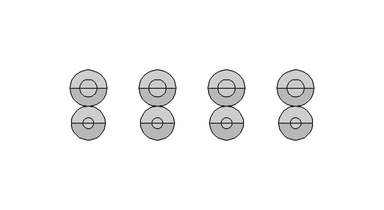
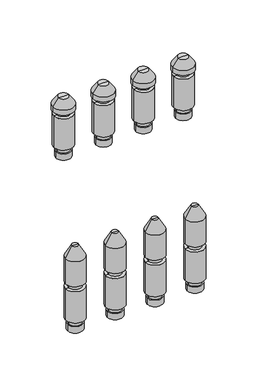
"""IFC4 building model written with IfcOpenShell, lengths in millimetres: valve geometry, PL AT_Manifold_FT-EV : 12 circuits."""

from ifc_helpers import new_model, si_unit, frame, origin, place, context, project, spatial, polyline, circle_curve, source, transform, mapped, element, save
from ifc_brep_helpers import plane_surface, cylinder_surface, revolved_surface, advanced_brep


def valve_28fdf4a6(model_context):
    return source(origin(), model_context, "Body", "AdvancedBrep", [
        advanced_brep(
        [(525.2272727, 0.0, -35.11267), (544.2272727, 0.0, -35.11267), (534.7272727, 0.0, -35.11267), (525.2272727, 0.0, -27.0369646), (544.2272727, 0.0, -27.0369646), (526.7272727, 0.0, -27.0369646), (542.7272727, 0.0, -27.0369646), (526.7272727, 0.0, -20.330253), (542.7272727, 0.0, -20.330253), (522.7272727, 0.0, -20.330253), (546.7272727, 0.0, -20.330253), (522.7272727, 0.0, 20.330253), (546.7272727, 0.0, 20.330253), (526.7272727, 0.0, 20.330253), (542.7272727, 0.0, 20.330253), (526.7272727, 0.0, 27.0474786), (542.7272727, 0.0, 27.0474786), (522.7272727, 0.0, 27.0474786), (546.7272727, 0.0, 27.0474786), (522.7272727, 0.0, 59.4084325), (546.7272727, 0.0, 59.4084325), (530.7272727, 0.0, 73.264839), (538.7272727, 0.0, 73.264839), (534.7272727, 0.0, 73.264839)],
        [
            (0, 1, circle_curve(frame((534.7272727, 0.0, -35.11267), z_axis=(0.0, 0.0, -1.0), x_axis=(1.0, 0.0, 0.0)), 9.5)),
            (1, 2),
            (2, 0),
            (1, 0, circle_curve(frame((534.7272727, 0.0, -35.11267), z_axis=(0.0, 0.0, -1.0), x_axis=(1.0, 0.0, 0.0)), 9.5)),
            (3, 4, circle_curve(frame((534.7272727, 0.0, -27.0369646), z_axis=(0.0, 0.0, -1.0), x_axis=(1.0, 0.0, 0.0)), 9.5)),
            (4, 1),
            (0, 3),
            (4, 3, circle_curve(frame((534.7272727, 0.0, -27.0369646), z_axis=(0.0, 0.0, -1.0), x_axis=(1.0, 0.0, 0.0)), 9.5)),
            (5, 6, circle_curve(frame((534.7272727, 0.0, -27.0369646), z_axis=(0.0, 0.0, -1.0), x_axis=(1.0, 0.0, 0.0)), 8.0)),
            (6, 4),
            (3, 5),
            (6, 5, circle_curve(frame((534.7272727, 0.0, -27.0369646), z_axis=(0.0, 0.0, -1.0), x_axis=(1.0, 0.0, 0.0)), 8.0)),
            (7, 8, circle_curve(frame((534.7272727, 0.0, -20.330253), z_axis=(0.0, 0.0, -1.0), x_axis=(1.0, 0.0, 0.0)), 8.0)),
            (8, 6),
            (5, 7),
            (8, 7, circle_curve(frame((534.7272727, 0.0, -20.330253), z_axis=(0.0, 0.0, -1.0), x_axis=(1.0, 0.0, 0.0)), 8.0)),
            (9, 10, circle_curve(frame((534.7272727, 0.0, -20.330253), z_axis=(0.0, 0.0, -1.0), x_axis=(1.0, 0.0, 0.0)), 12.0)),
            (10, 8),
            (7, 9),
            (10, 9, circle_curve(frame((534.7272727, 0.0, -20.330253), z_axis=(0.0, 0.0, -1.0), x_axis=(1.0, 0.0, 0.0)), 12.0)),
            (11, 12, circle_curve(frame((534.7272727, 0.0, 20.330253), z_axis=(0.0, 0.0, -1.0), x_axis=(1.0, 0.0, 0.0)), 12.0)),
            (12, 10),
            (9, 11),
            (12, 11, circle_curve(frame((534.7272727, 0.0, 20.330253), z_axis=(0.0, 0.0, -1.0), x_axis=(1.0, 0.0, 0.0)), 12.0)),
            (13, 14, circle_curve(frame((534.7272727, 0.0, 20.330253), z_axis=(0.0, 0.0, -1.0), x_axis=(1.0, 0.0, 0.0)), 8.0)),
            (14, 12),
            (11, 13),
            (14, 13, circle_curve(frame((534.7272727, 0.0, 20.330253), z_axis=(0.0, 0.0, -1.0), x_axis=(1.0, 0.0, 0.0)), 8.0)),
            (15, 16, circle_curve(frame((534.7272727, 0.0, 27.0474786), z_axis=(0.0, 0.0, -1.0), x_axis=(1.0, 0.0, 0.0)), 8.0)),
            (16, 14),
            (13, 15),
            (16, 15, circle_curve(frame((534.7272727, 0.0, 27.0474786), z_axis=(0.0, 0.0, -1.0), x_axis=(1.0, 0.0, 0.0)), 8.0)),
            (17, 18, circle_curve(frame((534.7272727, 0.0, 27.0474786), z_axis=(0.0, 0.0, -1.0), x_axis=(1.0, 0.0, 0.0)), 12.0)),
            (18, 16),
            (15, 17),
            (18, 17, circle_curve(frame((534.7272727, 0.0, 27.0474786), z_axis=(0.0, 0.0, -1.0), x_axis=(1.0, 0.0, 0.0)), 12.0)),
            (19, 20, circle_curve(frame((534.7272727, 0.0, 59.4084325), z_axis=(0.0, 0.0, -1.0), x_axis=(1.0, 0.0, 0.0)), 12.0)),
            (20, 18),
            (17, 19),
            (20, 19, circle_curve(frame((534.7272727, 0.0, 59.4084325), z_axis=(0.0, 0.0, -1.0), x_axis=(1.0, 0.0, 0.0)), 12.0)),
            (21, 22, circle_curve(frame((534.7272727, 0.0, 73.264839), z_axis=(0.0, 0.0, -1.0), x_axis=(1.0, 0.0, 0.0)), 4.0)),
            (22, 20),
            (19, 21),
            (22, 21, circle_curve(frame((534.7272727, 0.0, 73.264839), z_axis=(0.0, 0.0, -1.0), x_axis=(1.0, 0.0, 0.0)), 4.0)),
            (23, 22),
            (21, 23),
        ],
        [
            plane_surface(frame((534.7272727, 0.0, -35.11267), z_axis=(0.0, 0.0, -1.0), x_axis=(1.0, 0.0, 0.0))),
            cylinder_surface(frame((534.7272727, 0.0, 58.264839), z_axis=(0.0, 0.0, 1.0), x_axis=(1.0, 0.0, 0.0)), 9.5),
            plane_surface(frame((534.7272727, 0.0, -27.0369646), z_axis=(0.0, 0.0, 1.0), x_axis=(1.0, 0.0, 0.0))),
            cylinder_surface(frame((534.7272727, 0.0, 58.264839), z_axis=(0.0, 0.0, 1.0), x_axis=(1.0, 0.0, 0.0)), 8.0),
            plane_surface(frame((534.7272727, 0.0, -20.330253), z_axis=(0.0, 0.0, -1.0), x_axis=(1.0, 0.0, 0.0))),
            cylinder_surface(frame((534.7272727, 0.0, 58.264839), z_axis=(0.0, 0.0, 1.0), x_axis=(1.0, 0.0, 0.0)), 12.0),
            plane_surface(frame((534.7272727, 0.0, 20.330253), z_axis=(0.0, 0.0, 1.0), x_axis=(1.0, 0.0, 0.0))),
            plane_surface(frame((534.7272727, 0.0, 27.0474786), z_axis=(0.0, 0.0, -1.0), x_axis=(1.0, 0.0, 0.0))),
            revolved_surface(polyline([(546.7272727, 0.0, 59.4084325), (538.7272727, 0.0, 73.264839)]), (534.7272727, 0.0, 58.264839), (0.0, 0.0, 1.0)),
            plane_surface(frame((534.7272727, 0.0, 73.264839), z_axis=(0.0, 0.0, 1.0), x_axis=(1.0, 0.0, 0.0))),
        ],
        [
            (0, [[1, 2, 3]]),
            (0, [[4, -3, -2]]),
            (1, [[5, 6, -1, 7]]),
            (1, [[8, -7, -4, -6]]),
            (2, [[9, 10, -5, 11]]),
            (2, [[12, -11, -8, -10]]),
            (3, [[13, 14, -9, 15]]),
            (3, [[16, -15, -12, -14]]),
            (4, [[17, 18, -13, 19]]),
            (4, [[20, -19, -16, -18]]),
            (5, [[21, 22, -17, 23]]),
            (5, [[24, -23, -20, -22]]),
            (6, [[25, 26, -21, 27]]),
            (6, [[28, -27, -24, -26]]),
            (3, [[29, 30, -25, 31]]),
            (3, [[32, -31, -28, -30]]),
            (7, [[33, 34, -29, 35]]),
            (7, [[36, -35, -32, -34]]),
            (5, [[37, 38, -33, 39]]),
            (5, [[40, -39, -36, -38]]),
            (8, [[41, 42, -37, 43]]),
            (8, [[44, -43, -40, -42]]),
            (9, [[45, -41, 46]]),
            (9, [[-46, -44, -45]]),
        ],
    ),
        advanced_brep(
        [(475.9545455, 0.0, -35.11267), (494.9545455, 0.0, -35.11267), (485.4545455, 0.0, -35.11267), (475.9545455, 0.0, -27.0369646), (494.9545455, 0.0, -27.0369646), (477.4545455, 0.0, -27.0369646), (493.4545455, 0.0, -27.0369646), (477.4545455, 0.0, -20.330253), (493.4545455, 0.0, -20.330253), (473.4545455, 0.0, -20.330253), (497.4545455, 0.0, -20.330253), (473.4545455, 0.0, 20.330253), (497.4545455, 0.0, 20.330253), (477.4545455, 0.0, 20.330253), (493.4545455, 0.0, 20.330253), (477.4545455, 0.0, 27.0474786), (493.4545455, 0.0, 27.0474786), (473.4545455, 0.0, 27.0474786), (497.4545455, 0.0, 27.0474786), (473.4545455, 0.0, 59.4084325), (497.4545455, 0.0, 59.4084325), (481.4545455, 0.0, 73.264839), (489.4545455, 0.0, 73.264839), (485.4545455, 0.0, 73.264839)],
        [
            (0, 1, circle_curve(frame((485.4545455, 0.0, -35.11267), z_axis=(0.0, 0.0, -1.0), x_axis=(1.0, 0.0, 0.0)), 9.5)),
            (1, 2),
            (2, 0),
            (1, 0, circle_curve(frame((485.4545455, 0.0, -35.11267), z_axis=(0.0, 0.0, -1.0), x_axis=(1.0, 0.0, 0.0)), 9.5)),
            (3, 4, circle_curve(frame((485.4545455, 0.0, -27.0369646), z_axis=(0.0, 0.0, -1.0), x_axis=(1.0, 0.0, 0.0)), 9.5)),
            (4, 1),
            (0, 3),
            (4, 3, circle_curve(frame((485.4545455, 0.0, -27.0369646), z_axis=(0.0, 0.0, -1.0), x_axis=(1.0, 0.0, 0.0)), 9.5)),
            (5, 6, circle_curve(frame((485.4545455, 0.0, -27.0369646), z_axis=(0.0, 0.0, -1.0), x_axis=(1.0, 0.0, 0.0)), 8.0)),
            (6, 4),
            (3, 5),
            (6, 5, circle_curve(frame((485.4545455, 0.0, -27.0369646), z_axis=(0.0, 0.0, -1.0), x_axis=(1.0, 0.0, 0.0)), 8.0)),
            (7, 8, circle_curve(frame((485.4545455, 0.0, -20.330253), z_axis=(0.0, 0.0, -1.0), x_axis=(1.0, 0.0, 0.0)), 8.0)),
            (8, 6),
            (5, 7),
            (8, 7, circle_curve(frame((485.4545455, 0.0, -20.330253), z_axis=(0.0, 0.0, -1.0), x_axis=(1.0, 0.0, 0.0)), 8.0)),
            (9, 10, circle_curve(frame((485.4545455, 0.0, -20.330253), z_axis=(0.0, 0.0, -1.0), x_axis=(1.0, 0.0, 0.0)), 12.0)),
            (10, 8),
            (7, 9),
            (10, 9, circle_curve(frame((485.4545455, 0.0, -20.330253), z_axis=(0.0, 0.0, -1.0), x_axis=(1.0, 0.0, 0.0)), 12.0)),
            (11, 12, circle_curve(frame((485.4545455, 0.0, 20.330253), z_axis=(0.0, 0.0, -1.0), x_axis=(1.0, 0.0, 0.0)), 12.0)),
            (12, 10),
            (9, 11),
            (12, 11, circle_curve(frame((485.4545455, 0.0, 20.330253), z_axis=(0.0, 0.0, -1.0), x_axis=(1.0, 0.0, 0.0)), 12.0)),
            (13, 14, circle_curve(frame((485.4545455, 0.0, 20.330253), z_axis=(0.0, 0.0, -1.0), x_axis=(1.0, 0.0, 0.0)), 8.0)),
            (14, 12),
            (11, 13),
            (14, 13, circle_curve(frame((485.4545455, 0.0, 20.330253), z_axis=(0.0, 0.0, -1.0), x_axis=(1.0, 0.0, 0.0)), 8.0)),
            (15, 16, circle_curve(frame((485.4545455, 0.0, 27.0474786), z_axis=(0.0, 0.0, -1.0), x_axis=(1.0, 0.0, 0.0)), 8.0)),
            (16, 14),
            (13, 15),
            (16, 15, circle_curve(frame((485.4545455, 0.0, 27.0474786), z_axis=(0.0, 0.0, -1.0), x_axis=(1.0, 0.0, 0.0)), 8.0)),
            (17, 18, circle_curve(frame((485.4545455, 0.0, 27.0474786), z_axis=(0.0, 0.0, -1.0), x_axis=(1.0, 0.0, 0.0)), 12.0)),
            (18, 16),
            (15, 17),
            (18, 17, circle_curve(frame((485.4545455, 0.0, 27.0474786), z_axis=(0.0, 0.0, -1.0), x_axis=(1.0, 0.0, 0.0)), 12.0)),
            (19, 20, circle_curve(frame((485.4545455, 0.0, 59.4084325), z_axis=(0.0, 0.0, -1.0), x_axis=(1.0, 0.0, 0.0)), 12.0)),
            (20, 18),
            (17, 19),
            (20, 19, circle_curve(frame((485.4545455, 0.0, 59.4084325), z_axis=(0.0, 0.0, -1.0), x_axis=(1.0, 0.0, 0.0)), 12.0)),
            (21, 22, circle_curve(frame((485.4545455, 0.0, 73.264839), z_axis=(0.0, 0.0, -1.0), x_axis=(1.0, 0.0, 0.0)), 4.0)),
            (22, 20),
            (19, 21),
            (22, 21, circle_curve(frame((485.4545455, 0.0, 73.264839), z_axis=(0.0, 0.0, -1.0), x_axis=(1.0, 0.0, 0.0)), 4.0)),
            (23, 22),
            (21, 23),
        ],
        [
            plane_surface(frame((485.4545455, 0.0, -35.11267), z_axis=(0.0, 0.0, -1.0), x_axis=(1.0, 0.0, 0.0))),
            cylinder_surface(frame((485.4545455, 0.0, 58.264839), z_axis=(0.0, 0.0, 1.0), x_axis=(1.0, 0.0, 0.0)), 9.5),
            plane_surface(frame((485.4545455, 0.0, -27.0369646), z_axis=(0.0, 0.0, 1.0), x_axis=(1.0, 0.0, 0.0))),
            cylinder_surface(frame((485.4545455, 0.0, 58.264839), z_axis=(0.0, 0.0, 1.0), x_axis=(1.0, 0.0, 0.0)), 8.0),
            plane_surface(frame((485.4545455, 0.0, -20.330253), z_axis=(0.0, 0.0, -1.0), x_axis=(1.0, 0.0, 0.0))),
            cylinder_surface(frame((485.4545455, 0.0, 58.264839), z_axis=(0.0, 0.0, 1.0), x_axis=(1.0, 0.0, 0.0)), 12.0),
            plane_surface(frame((485.4545455, 0.0, 20.330253), z_axis=(0.0, 0.0, 1.0), x_axis=(1.0, 0.0, 0.0))),
            plane_surface(frame((485.4545455, 0.0, 27.0474786), z_axis=(0.0, 0.0, -1.0), x_axis=(1.0, 0.0, 0.0))),
            revolved_surface(polyline([(497.4545455, 0.0, 59.4084325), (489.4545455, 0.0, 73.264839)]), (485.4545455, 0.0, 58.264839), (0.0, 0.0, 1.0)),
            plane_surface(frame((485.4545455, 0.0, 73.264839), z_axis=(0.0, 0.0, 1.0), x_axis=(1.0, 0.0, 0.0))),
        ],
        [
            (0, [[1, 2, 3]]),
            (0, [[4, -3, -2]]),
            (1, [[5, 6, -1, 7]]),
            (1, [[8, -7, -4, -6]]),
            (2, [[9, 10, -5, 11]]),
            (2, [[12, -11, -8, -10]]),
            (3, [[13, 14, -9, 15]]),
            (3, [[16, -15, -12, -14]]),
            (4, [[17, 18, -13, 19]]),
            (4, [[20, -19, -16, -18]]),
            (5, [[21, 22, -17, 23]]),
            (5, [[24, -23, -20, -22]]),
            (6, [[25, 26, -21, 27]]),
            (6, [[28, -27, -24, -26]]),
            (3, [[29, 30, -25, 31]]),
            (3, [[32, -31, -28, -30]]),
            (7, [[33, 34, -29, 35]]),
            (7, [[36, -35, -32, -34]]),
            (5, [[37, 38, -33, 39]]),
            (5, [[40, -39, -36, -38]]),
            (8, [[41, 42, -37, 43]]),
            (8, [[44, -43, -40, -42]]),
            (9, [[45, -41, 46]]),
            (9, [[-46, -44, -45]]),
        ],
    ),
        advanced_brep(
        [(426.6818182, 0.0, -35.11267), (445.6818182, 0.0, -35.11267), (436.1818182, 0.0, -35.11267), (426.6818182, 0.0, -27.0369646), (445.6818182, 0.0, -27.0369646), (428.1818182, 0.0, -27.0369646), (444.1818182, 0.0, -27.0369646), (428.1818182, 0.0, -20.330253), (444.1818182, 0.0, -20.330253), (424.1818182, 0.0, -20.330253), (448.1818182, 0.0, -20.330253), (424.1818182, 0.0, 20.330253), (448.1818182, 0.0, 20.330253), (428.1818182, 0.0, 20.330253), (444.1818182, 0.0, 20.330253), (428.1818182, 0.0, 27.0474786), (444.1818182, 0.0, 27.0474786), (424.1818182, 0.0, 27.0474786), (448.1818182, 0.0, 27.0474786), (424.1818182, 0.0, 59.4084325), (448.1818182, 0.0, 59.4084325), (432.1818182, 0.0, 73.264839), (440.1818182, 0.0, 73.264839), (436.1818182, 0.0, 73.264839)],
        [
            (0, 1, circle_curve(frame((436.1818182, 0.0, -35.11267), z_axis=(0.0, 0.0, -1.0), x_axis=(1.0, 0.0, 0.0)), 9.5)),
            (1, 2),
            (2, 0),
            (1, 0, circle_curve(frame((436.1818182, 0.0, -35.11267), z_axis=(0.0, 0.0, -1.0), x_axis=(1.0, 0.0, 0.0)), 9.5)),
            (3, 4, circle_curve(frame((436.1818182, 0.0, -27.0369646), z_axis=(0.0, 0.0, -1.0), x_axis=(1.0, 0.0, 0.0)), 9.5)),
            (4, 1),
            (0, 3),
            (4, 3, circle_curve(frame((436.1818182, 0.0, -27.0369646), z_axis=(0.0, 0.0, -1.0), x_axis=(1.0, 0.0, 0.0)), 9.5)),
            (5, 6, circle_curve(frame((436.1818182, 0.0, -27.0369646), z_axis=(0.0, 0.0, -1.0), x_axis=(1.0, 0.0, 0.0)), 8.0)),
            (6, 4),
            (3, 5),
            (6, 5, circle_curve(frame((436.1818182, 0.0, -27.0369646), z_axis=(0.0, 0.0, -1.0), x_axis=(1.0, 0.0, 0.0)), 8.0)),
            (7, 8, circle_curve(frame((436.1818182, 0.0, -20.330253), z_axis=(0.0, 0.0, -1.0), x_axis=(1.0, 0.0, 0.0)), 8.0)),
            (8, 6),
            (5, 7),
            (8, 7, circle_curve(frame((436.1818182, 0.0, -20.330253), z_axis=(0.0, 0.0, -1.0), x_axis=(1.0, 0.0, 0.0)), 8.0)),
            (9, 10, circle_curve(frame((436.1818182, 0.0, -20.330253), z_axis=(0.0, 0.0, -1.0), x_axis=(1.0, 0.0, 0.0)), 12.0)),
            (10, 8),
            (7, 9),
            (10, 9, circle_curve(frame((436.1818182, 0.0, -20.330253), z_axis=(0.0, 0.0, -1.0), x_axis=(1.0, 0.0, 0.0)), 12.0)),
            (11, 12, circle_curve(frame((436.1818182, 0.0, 20.330253), z_axis=(0.0, 0.0, -1.0), x_axis=(1.0, 0.0, 0.0)), 12.0)),
            (12, 10),
            (9, 11),
            (12, 11, circle_curve(frame((436.1818182, 0.0, 20.330253), z_axis=(0.0, 0.0, -1.0), x_axis=(1.0, 0.0, 0.0)), 12.0)),
            (13, 14, circle_curve(frame((436.1818182, 0.0, 20.330253), z_axis=(0.0, 0.0, -1.0), x_axis=(1.0, 0.0, 0.0)), 8.0)),
            (14, 12),
            (11, 13),
            (14, 13, circle_curve(frame((436.1818182, 0.0, 20.330253), z_axis=(0.0, 0.0, -1.0), x_axis=(1.0, 0.0, 0.0)), 8.0)),
            (15, 16, circle_curve(frame((436.1818182, 0.0, 27.0474786), z_axis=(0.0, 0.0, -1.0), x_axis=(1.0, 0.0, 0.0)), 8.0)),
            (16, 14),
            (13, 15),
            (16, 15, circle_curve(frame((436.1818182, 0.0, 27.0474786), z_axis=(0.0, 0.0, -1.0), x_axis=(1.0, 0.0, 0.0)), 8.0)),
            (17, 18, circle_curve(frame((436.1818182, 0.0, 27.0474786), z_axis=(0.0, 0.0, -1.0), x_axis=(1.0, 0.0, 0.0)), 12.0)),
            (18, 16),
            (15, 17),
            (18, 17, circle_curve(frame((436.1818182, 0.0, 27.0474786), z_axis=(0.0, 0.0, -1.0), x_axis=(1.0, 0.0, 0.0)), 12.0)),
            (19, 20, circle_curve(frame((436.1818182, 0.0, 59.4084325), z_axis=(0.0, 0.0, -1.0), x_axis=(1.0, 0.0, 0.0)), 12.0)),
            (20, 18),
            (17, 19),
            (20, 19, circle_curve(frame((436.1818182, 0.0, 59.4084325), z_axis=(0.0, 0.0, -1.0), x_axis=(1.0, 0.0, 0.0)), 12.0)),
            (21, 22, circle_curve(frame((436.1818182, 0.0, 73.264839), z_axis=(0.0, 0.0, -1.0), x_axis=(1.0, 0.0, 0.0)), 4.0)),
            (22, 20),
            (19, 21),
            (22, 21, circle_curve(frame((436.1818182, 0.0, 73.264839), z_axis=(0.0, 0.0, -1.0), x_axis=(1.0, 0.0, 0.0)), 4.0)),
            (23, 22),
            (21, 23),
        ],
        [
            plane_surface(frame((436.1818182, 0.0, -35.11267), z_axis=(0.0, 0.0, -1.0), x_axis=(1.0, 0.0, 0.0))),
            cylinder_surface(frame((436.1818182, 0.0, 58.264839), z_axis=(0.0, 0.0, 1.0), x_axis=(1.0, 0.0, 0.0)), 9.5),
            plane_surface(frame((436.1818182, 0.0, -27.0369646), z_axis=(0.0, 0.0, 1.0), x_axis=(1.0, 0.0, 0.0))),
            cylinder_surface(frame((436.1818182, 0.0, 58.264839), z_axis=(0.0, 0.0, 1.0), x_axis=(1.0, 0.0, 0.0)), 8.0),
            plane_surface(frame((436.1818182, 0.0, -20.330253), z_axis=(0.0, 0.0, -1.0), x_axis=(1.0, 0.0, 0.0))),
            cylinder_surface(frame((436.1818182, 0.0, 58.264839), z_axis=(0.0, 0.0, 1.0), x_axis=(1.0, 0.0, 0.0)), 12.0),
            plane_surface(frame((436.1818182, 0.0, 20.330253), z_axis=(0.0, 0.0, 1.0), x_axis=(1.0, 0.0, 0.0))),
            plane_surface(frame((436.1818182, 0.0, 27.0474786), z_axis=(0.0, 0.0, -1.0), x_axis=(1.0, 0.0, 0.0))),
            revolved_surface(polyline([(448.1818182, 0.0, 59.4084325), (440.1818182, 0.0, 73.264839)]), (436.1818182, 0.0, 58.264839), (0.0, 0.0, 1.0)),
            plane_surface(frame((436.1818182, 0.0, 73.264839), z_axis=(0.0, 0.0, 1.0), x_axis=(1.0, 0.0, 0.0))),
        ],
        [
            (0, [[1, 2, 3]]),
            (0, [[4, -3, -2]]),
            (1, [[5, 6, -1, 7]]),
            (1, [[8, -7, -4, -6]]),
            (2, [[9, 10, -5, 11]]),
            (2, [[12, -11, -8, -10]]),
            (3, [[13, 14, -9, 15]]),
            (3, [[16, -15, -12, -14]]),
            (4, [[17, 18, -13, 19]]),
            (4, [[20, -19, -16, -18]]),
            (5, [[21, 22, -17, 23]]),
            (5, [[24, -23, -20, -22]]),
            (6, [[25, 26, -21, 27]]),
            (6, [[28, -27, -24, -26]]),
            (3, [[29, 30, -25, 31]]),
            (3, [[32, -31, -28, -30]]),
            (7, [[33, 34, -29, 35]]),
            (7, [[36, -35, -32, -34]]),
            (5, [[37, 38, -33, 39]]),
            (5, [[40, -39, -36, -38]]),
            (8, [[41, 42, -37, 43]]),
            (8, [[44, -43, -40, -42]]),
            (9, [[45, -41, 46]]),
            (9, [[-46, -44, -45]]),
        ],
    ),
        advanced_brep(
        [(377.4090909, 0.0, -35.11267), (396.4090909, 0.0, -35.11267), (386.9090909, 0.0, -35.11267), (377.4090909, 0.0, -27.0369646), (396.4090909, 0.0, -27.0369646), (378.9090909, 0.0, -27.0369646), (394.9090909, 0.0, -27.0369646), (378.9090909, 0.0, -20.330253), (394.9090909, 0.0, -20.330253), (374.9090909, 0.0, -20.330253), (398.9090909, 0.0, -20.330253), (374.9090909, 0.0, 20.330253), (398.9090909, 0.0, 20.330253), (378.9090909, 0.0, 20.330253), (394.9090909, 0.0, 20.330253), (378.9090909, 0.0, 27.0474786), (394.9090909, 0.0, 27.0474786), (374.9090909, 0.0, 27.0474786), (398.9090909, 0.0, 27.0474786), (374.9090909, 0.0, 59.4084325), (398.9090909, 0.0, 59.4084325), (382.9090909, 0.0, 73.264839), (390.9090909, 0.0, 73.264839), (386.9090909, 0.0, 73.264839)],
        [
            (0, 1, circle_curve(frame((386.9090909, 0.0, -35.11267), z_axis=(0.0, 0.0, -1.0), x_axis=(1.0, 0.0, 0.0)), 9.5)),
            (1, 2),
            (2, 0),
            (1, 0, circle_curve(frame((386.9090909, 0.0, -35.11267), z_axis=(0.0, 0.0, -1.0), x_axis=(1.0, 0.0, 0.0)), 9.5)),
            (3, 4, circle_curve(frame((386.9090909, 0.0, -27.0369646), z_axis=(0.0, 0.0, -1.0), x_axis=(1.0, 0.0, 0.0)), 9.5)),
            (4, 1),
            (0, 3),
            (4, 3, circle_curve(frame((386.9090909, 0.0, -27.0369646), z_axis=(0.0, 0.0, -1.0), x_axis=(1.0, 0.0, 0.0)), 9.5)),
            (5, 6, circle_curve(frame((386.9090909, 0.0, -27.0369646), z_axis=(0.0, 0.0, -1.0), x_axis=(1.0, 0.0, 0.0)), 8.0)),
            (6, 4),
            (3, 5),
            (6, 5, circle_curve(frame((386.9090909, 0.0, -27.0369646), z_axis=(0.0, 0.0, -1.0), x_axis=(1.0, 0.0, 0.0)), 8.0)),
            (7, 8, circle_curve(frame((386.9090909, 0.0, -20.330253), z_axis=(0.0, 0.0, -1.0), x_axis=(1.0, 0.0, 0.0)), 8.0)),
            (8, 6),
            (5, 7),
            (8, 7, circle_curve(frame((386.9090909, 0.0, -20.330253), z_axis=(0.0, 0.0, -1.0), x_axis=(1.0, 0.0, 0.0)), 8.0)),
            (9, 10, circle_curve(frame((386.9090909, 0.0, -20.330253), z_axis=(0.0, 0.0, -1.0), x_axis=(1.0, 0.0, 0.0)), 12.0)),
            (10, 8),
            (7, 9),
            (10, 9, circle_curve(frame((386.9090909, 0.0, -20.330253), z_axis=(0.0, 0.0, -1.0), x_axis=(1.0, 0.0, 0.0)), 12.0)),
            (11, 12, circle_curve(frame((386.9090909, 0.0, 20.330253), z_axis=(0.0, 0.0, -1.0), x_axis=(1.0, 0.0, 0.0)), 12.0)),
            (12, 10),
            (9, 11),
            (12, 11, circle_curve(frame((386.9090909, 0.0, 20.330253), z_axis=(0.0, 0.0, -1.0), x_axis=(1.0, 0.0, 0.0)), 12.0)),
            (13, 14, circle_curve(frame((386.9090909, 0.0, 20.330253), z_axis=(0.0, 0.0, -1.0), x_axis=(1.0, 0.0, 0.0)), 8.0)),
            (14, 12),
            (11, 13),
            (14, 13, circle_curve(frame((386.9090909, 0.0, 20.330253), z_axis=(0.0, 0.0, -1.0), x_axis=(1.0, 0.0, 0.0)), 8.0)),
            (15, 16, circle_curve(frame((386.9090909, 0.0, 27.0474786), z_axis=(0.0, 0.0, -1.0), x_axis=(1.0, 0.0, 0.0)), 8.0)),
            (16, 14),
            (13, 15),
            (16, 15, circle_curve(frame((386.9090909, 0.0, 27.0474786), z_axis=(0.0, 0.0, -1.0), x_axis=(1.0, 0.0, 0.0)), 8.0)),
            (17, 18, circle_curve(frame((386.9090909, 0.0, 27.0474786), z_axis=(0.0, 0.0, -1.0), x_axis=(1.0, 0.0, 0.0)), 12.0)),
            (18, 16),
            (15, 17),
            (18, 17, circle_curve(frame((386.9090909, 0.0, 27.0474786), z_axis=(0.0, 0.0, -1.0), x_axis=(1.0, 0.0, 0.0)), 12.0)),
            (19, 20, circle_curve(frame((386.9090909, 0.0, 59.4084325), z_axis=(0.0, 0.0, -1.0), x_axis=(1.0, 0.0, 0.0)), 12.0)),
            (20, 18),
            (17, 19),
            (20, 19, circle_curve(frame((386.9090909, 0.0, 59.4084325), z_axis=(0.0, 0.0, -1.0), x_axis=(1.0, 0.0, 0.0)), 12.0)),
            (21, 22, circle_curve(frame((386.9090909, 0.0, 73.264839), z_axis=(0.0, 0.0, -1.0), x_axis=(1.0, 0.0, 0.0)), 4.0)),
            (22, 20),
            (19, 21),
            (22, 21, circle_curve(frame((386.9090909, 0.0, 73.264839), z_axis=(0.0, 0.0, -1.0), x_axis=(1.0, 0.0, 0.0)), 4.0)),
            (23, 22),
            (21, 23),
        ],
        [
            plane_surface(frame((386.9090909, 0.0, -35.11267), z_axis=(0.0, 0.0, -1.0), x_axis=(1.0, 0.0, 0.0))),
            cylinder_surface(frame((386.9090909, 0.0, 58.264839), z_axis=(0.0, 0.0, 1.0), x_axis=(1.0, 0.0, 0.0)), 9.5),
            plane_surface(frame((386.9090909, 0.0, -27.0369646), z_axis=(0.0, 0.0, 1.0), x_axis=(1.0, 0.0, 0.0))),
            cylinder_surface(frame((386.9090909, 0.0, 58.264839), z_axis=(0.0, 0.0, 1.0), x_axis=(1.0, 0.0, 0.0)), 8.0),
            plane_surface(frame((386.9090909, 0.0, -20.330253), z_axis=(0.0, 0.0, -1.0), x_axis=(1.0, 0.0, 0.0))),
            cylinder_surface(frame((386.9090909, 0.0, 58.264839), z_axis=(0.0, 0.0, 1.0), x_axis=(1.0, 0.0, 0.0)), 12.0),
            plane_surface(frame((386.9090909, 0.0, 20.330253), z_axis=(0.0, 0.0, 1.0), x_axis=(1.0, 0.0, 0.0))),
            plane_surface(frame((386.9090909, 0.0, 27.0474786), z_axis=(0.0, 0.0, -1.0), x_axis=(1.0, 0.0, 0.0))),
            revolved_surface(polyline([(398.9090909, 0.0, 59.4084325), (390.9090909, 0.0, 73.264839)]), (386.9090909, 0.0, 58.264839), (0.0, 0.0, 1.0)),
            plane_surface(frame((386.9090909, 0.0, 73.264839), z_axis=(0.0, 0.0, 1.0), x_axis=(1.0, 0.0, 0.0))),
        ],
        [
            (0, [[1, 2, 3]]),
            (0, [[4, -3, -2]]),
            (1, [[5, 6, -1, 7]]),
            (1, [[8, -7, -4, -6]]),
            (2, [[9, 10, -5, 11]]),
            (2, [[12, -11, -8, -10]]),
            (3, [[13, 14, -9, 15]]),
            (3, [[16, -15, -12, -14]]),
            (4, [[17, 18, -13, 19]]),
            (4, [[20, -19, -16, -18]]),
            (5, [[21, 22, -17, 23]]),
            (5, [[24, -23, -20, -22]]),
            (6, [[25, 26, -21, 27]]),
            (6, [[28, -27, -24, -26]]),
            (3, [[29, 30, -25, 31]]),
            (3, [[32, -31, -28, -30]]),
            (7, [[33, 34, -29, 35]]),
            (7, [[36, -35, -32, -34]]),
            (5, [[37, 38, -33, 39]]),
            (5, [[40, -39, -36, -38]]),
            (8, [[41, 42, -37, 43]]),
            (8, [[44, -43, -40, -42]]),
            (9, [[45, -41, 46]]),
            (9, [[-46, -44, -45]]),
        ],
    ),
        advanced_brep(
        [(525.2272727, 25.0, 174.88733), (544.2272727, 25.0, 174.88733), (534.7272727, 25.0, 174.88733), (525.2272727, 25.0, 182.9630354), (544.2272727, 25.0, 182.9630354), (526.7272727, 25.0, 182.9630354), (542.7272727, 25.0, 182.9630354), (526.7272727, 25.0, 189.669747), (542.7272727, 25.0, 189.669747), (522.7272727, 25.0, 189.669747), (546.7272727, 25.0, 189.669747), (522.7272727, 25.0, 230.330253), (546.7272727, 25.0, 230.330253), (526.7272727, 25.0, 230.330253), (542.7272727, 25.0, 230.330253), (526.7272727, 25.0, 236.0474786), (542.7272727, 25.0, 236.0474786), (521.7272727, 25.0, 236.0474786), (547.7272727, 25.0, 236.0474786), (521.7272727, 25.0, 242.337955), (547.7272727, 25.0, 242.337955), (528.3824506, 25.0, 251.842534), (541.0720949, 25.0, 251.842534), (534.7272727, 25.0, 251.842534)],
        [
            (0, 1, circle_curve(frame((534.7272727, 25.0, 174.88733), z_axis=(0.0, 0.0, -1.0), x_axis=(1.0, 0.0, 0.0)), 9.5)),
            (1, 2),
            (2, 0),
            (1, 0, circle_curve(frame((534.7272727, 25.0, 174.88733), z_axis=(0.0, 0.0, -1.0), x_axis=(1.0, 0.0, 0.0)), 9.5)),
            (3, 4, circle_curve(frame((534.7272727, 25.0, 182.9630354), z_axis=(0.0, 0.0, -1.0), x_axis=(1.0, 0.0, 0.0)), 9.5)),
            (4, 1),
            (0, 3),
            (4, 3, circle_curve(frame((534.7272727, 25.0, 182.9630354), z_axis=(0.0, 0.0, -1.0), x_axis=(1.0, 0.0, 0.0)), 9.5)),
            (5, 6, circle_curve(frame((534.7272727, 25.0, 182.9630354), z_axis=(0.0, 0.0, -1.0), x_axis=(1.0, 0.0, 0.0)), 8.0)),
            (6, 4),
            (3, 5),
            (6, 5, circle_curve(frame((534.7272727, 25.0, 182.9630354), z_axis=(0.0, 0.0, -1.0), x_axis=(1.0, 0.0, 0.0)), 8.0)),
            (7, 8, circle_curve(frame((534.7272727, 25.0, 189.669747), z_axis=(0.0, 0.0, -1.0), x_axis=(1.0, 0.0, 0.0)), 8.0)),
            (8, 6),
            (5, 7),
            (8, 7, circle_curve(frame((534.7272727, 25.0, 189.669747), z_axis=(0.0, 0.0, -1.0), x_axis=(1.0, 0.0, 0.0)), 8.0)),
            (9, 10, circle_curve(frame((534.7272727, 25.0, 189.669747), z_axis=(0.0, 0.0, -1.0), x_axis=(1.0, 0.0, 0.0)), 12.0)),
            (10, 8),
            (7, 9),
            (10, 9, circle_curve(frame((534.7272727, 25.0, 189.669747), z_axis=(0.0, 0.0, -1.0), x_axis=(1.0, 0.0, 0.0)), 12.0)),
            (11, 12, circle_curve(frame((534.7272727, 25.0, 230.330253), z_axis=(0.0, 0.0, -1.0), x_axis=(1.0, 0.0, 0.0)), 12.0)),
            (12, 10),
            (9, 11),
            (12, 11, circle_curve(frame((534.7272727, 25.0, 230.330253), z_axis=(0.0, 0.0, -1.0), x_axis=(1.0, 0.0, 0.0)), 12.0)),
            (13, 14, circle_curve(frame((534.7272727, 25.0, 230.330253), z_axis=(0.0, 0.0, -1.0), x_axis=(1.0, 0.0, 0.0)), 8.0)),
            (14, 12),
            (11, 13),
            (14, 13, circle_curve(frame((534.7272727, 25.0, 230.330253), z_axis=(0.0, 0.0, -1.0), x_axis=(1.0, 0.0, 0.0)), 8.0)),
            (15, 16, circle_curve(frame((534.7272727, 25.0, 236.0474786), z_axis=(0.0, 0.0, -1.0), x_axis=(1.0, 0.0, 0.0)), 8.0)),
            (16, 14),
            (13, 15),
            (16, 15, circle_curve(frame((534.7272727, 25.0, 236.0474786), z_axis=(0.0, 0.0, -1.0), x_axis=(1.0, 0.0, 0.0)), 8.0)),
            (17, 18, circle_curve(frame((534.7272727, 25.0, 236.0474786), z_axis=(0.0, 0.0, -1.0), x_axis=(1.0, 0.0, 0.0)), 13.0)),
            (18, 16),
            (15, 17),
            (18, 17, circle_curve(frame((534.7272727, 25.0, 236.0474786), z_axis=(0.0, 0.0, -1.0), x_axis=(1.0, 0.0, 0.0)), 13.0)),
            (19, 20, circle_curve(frame((534.7272727, 25.0, 242.337955), z_axis=(0.0, 0.0, -1.0), x_axis=(1.0, 0.0, 0.0)), 13.0)),
            (20, 18),
            (17, 19),
            (20, 19, circle_curve(frame((534.7272727, 25.0, 242.337955), z_axis=(0.0, 0.0, -1.0), x_axis=(1.0, 0.0, 0.0)), 13.0)),
            (21, 22, circle_curve(frame((534.7272727, 25.0, 251.842534), z_axis=(0.0, 0.0, -1.0), x_axis=(1.0, 0.0, 0.0)), 6.3448221)),
            (22, 20),
            (19, 21),
            (22, 21, circle_curve(frame((534.7272727, 25.0, 251.842534), z_axis=(0.0, 0.0, -1.0), x_axis=(1.0, 0.0, 0.0)), 6.3448221)),
            (23, 22),
            (21, 23),
        ],
        [
            plane_surface(frame((534.7272727, 25.0, 174.88733), z_axis=(0.0, 0.0, -1.0), x_axis=(1.0, 0.0, 0.0))),
            cylinder_surface(frame((534.7272727, 25.0, 247.7026565), z_axis=(0.0, 0.0, 1.0), x_axis=(1.0, 0.0, 0.0)), 9.5),
            plane_surface(frame((534.7272727, 25.0, 182.9630354), z_axis=(0.0, 0.0, 1.0), x_axis=(1.0, 0.0, 0.0))),
            cylinder_surface(frame((534.7272727, 25.0, 247.7026565), z_axis=(0.0, 0.0, 1.0), x_axis=(1.0, 0.0, 0.0)), 8.0),
            plane_surface(frame((534.7272727, 25.0, 189.669747), z_axis=(0.0, 0.0, -1.0), x_axis=(1.0, 0.0, 0.0))),
            cylinder_surface(frame((534.7272727, 25.0, 247.7026565), z_axis=(0.0, 0.0, 1.0), x_axis=(1.0, 0.0, 0.0)), 12.0),
            plane_surface(frame((534.7272727, 25.0, 230.330253), z_axis=(0.0, 0.0, 1.0), x_axis=(1.0, 0.0, 0.0))),
            plane_surface(frame((534.7272727, 25.0, 236.0474786), z_axis=(0.0, 0.0, -1.0), x_axis=(1.0, 0.0, 0.0))),
            cylinder_surface(frame((534.7272727, 25.0, 247.7026565), z_axis=(0.0, 0.0, 1.0), x_axis=(1.0, 0.0, 0.0)), 13.0),
            revolved_surface(polyline([(547.7272727, 25.0, 242.337955), (541.0720949, 25.0, 251.842534)]), (534.7272727, 25.0, 247.7026565), (0.0, 0.0, 1.0)),
            plane_surface(frame((534.7272727, 25.0, 251.842534), z_axis=(0.0, 0.0, 1.0), x_axis=(1.0, 0.0, 0.0))),
        ],
        [
            (0, [[1, 2, 3]]),
            (0, [[4, -3, -2]]),
            (1, [[5, 6, -1, 7]]),
            (1, [[8, -7, -4, -6]]),
            (2, [[9, 10, -5, 11]]),
            (2, [[12, -11, -8, -10]]),
            (3, [[13, 14, -9, 15]]),
            (3, [[16, -15, -12, -14]]),
            (4, [[17, 18, -13, 19]]),
            (4, [[20, -19, -16, -18]]),
            (5, [[21, 22, -17, 23]]),
            (5, [[24, -23, -20, -22]]),
            (6, [[25, 26, -21, 27]]),
            (6, [[28, -27, -24, -26]]),
            (3, [[29, 30, -25, 31]]),
            (3, [[32, -31, -28, -30]]),
            (7, [[33, 34, -29, 35]]),
            (7, [[36, -35, -32, -34]]),
            (8, [[37, 38, -33, 39]]),
            (8, [[40, -39, -36, -38]]),
            (9, [[41, 42, -37, 43]]),
            (9, [[44, -43, -40, -42]]),
            (10, [[45, -41, 46]]),
            (10, [[-46, -44, -45]]),
        ],
    ),
        advanced_brep(
        [(475.9545455, 25.0, 174.88733), (494.9545455, 25.0, 174.88733), (485.4545455, 25.0, 174.88733), (475.9545455, 25.0, 182.9630354), (494.9545455, 25.0, 182.9630354), (477.4545455, 25.0, 182.9630354), (493.4545455, 25.0, 182.9630354), (477.4545455, 25.0, 189.669747), (493.4545455, 25.0, 189.669747), (473.4545455, 25.0, 189.669747), (497.4545455, 25.0, 189.669747), (473.4545455, 25.0, 230.330253), (497.4545455, 25.0, 230.330253), (477.4545455, 25.0, 230.330253), (493.4545455, 25.0, 230.330253), (477.4545455, 25.0, 236.0474786), (493.4545455, 25.0, 236.0474786), (472.4545455, 25.0, 236.0474786), (498.4545455, 25.0, 236.0474786), (472.4545455, 25.0, 242.337955), (498.4545455, 25.0, 242.337955), (479.1097233, 25.0, 251.842534), (491.7993676, 25.0, 251.842534), (485.4545455, 25.0, 251.842534)],
        [
            (0, 1, circle_curve(frame((485.4545455, 25.0, 174.88733), z_axis=(0.0, 0.0, -1.0), x_axis=(1.0, 0.0, 0.0)), 9.5)),
            (1, 2),
            (2, 0),
            (1, 0, circle_curve(frame((485.4545455, 25.0, 174.88733), z_axis=(0.0, 0.0, -1.0), x_axis=(1.0, 0.0, 0.0)), 9.5)),
            (3, 4, circle_curve(frame((485.4545455, 25.0, 182.9630354), z_axis=(0.0, 0.0, -1.0), x_axis=(1.0, 0.0, 0.0)), 9.5)),
            (4, 1),
            (0, 3),
            (4, 3, circle_curve(frame((485.4545455, 25.0, 182.9630354), z_axis=(0.0, 0.0, -1.0), x_axis=(1.0, 0.0, 0.0)), 9.5)),
            (5, 6, circle_curve(frame((485.4545455, 25.0, 182.9630354), z_axis=(0.0, 0.0, -1.0), x_axis=(1.0, 0.0, 0.0)), 8.0)),
            (6, 4),
            (3, 5),
            (6, 5, circle_curve(frame((485.4545455, 25.0, 182.9630354), z_axis=(0.0, 0.0, -1.0), x_axis=(1.0, 0.0, 0.0)), 8.0)),
            (7, 8, circle_curve(frame((485.4545455, 25.0, 189.669747), z_axis=(0.0, 0.0, -1.0), x_axis=(1.0, 0.0, 0.0)), 8.0)),
            (8, 6),
            (5, 7),
            (8, 7, circle_curve(frame((485.4545455, 25.0, 189.669747), z_axis=(0.0, 0.0, -1.0), x_axis=(1.0, 0.0, 0.0)), 8.0)),
            (9, 10, circle_curve(frame((485.4545455, 25.0, 189.669747), z_axis=(0.0, 0.0, -1.0), x_axis=(1.0, 0.0, 0.0)), 12.0)),
            (10, 8),
            (7, 9),
            (10, 9, circle_curve(frame((485.4545455, 25.0, 189.669747), z_axis=(0.0, 0.0, -1.0), x_axis=(1.0, 0.0, 0.0)), 12.0)),
            (11, 12, circle_curve(frame((485.4545455, 25.0, 230.330253), z_axis=(0.0, 0.0, -1.0), x_axis=(1.0, 0.0, 0.0)), 12.0)),
            (12, 10),
            (9, 11),
            (12, 11, circle_curve(frame((485.4545455, 25.0, 230.330253), z_axis=(0.0, 0.0, -1.0), x_axis=(1.0, 0.0, 0.0)), 12.0)),
            (13, 14, circle_curve(frame((485.4545455, 25.0, 230.330253), z_axis=(0.0, 0.0, -1.0), x_axis=(1.0, 0.0, 0.0)), 8.0)),
            (14, 12),
            (11, 13),
            (14, 13, circle_curve(frame((485.4545455, 25.0, 230.330253), z_axis=(0.0, 0.0, -1.0), x_axis=(1.0, 0.0, 0.0)), 8.0)),
            (15, 16, circle_curve(frame((485.4545455, 25.0, 236.0474786), z_axis=(0.0, 0.0, -1.0), x_axis=(1.0, 0.0, 0.0)), 8.0)),
            (16, 14),
            (13, 15),
            (16, 15, circle_curve(frame((485.4545455, 25.0, 236.0474786), z_axis=(0.0, 0.0, -1.0), x_axis=(1.0, 0.0, 0.0)), 8.0)),
            (17, 18, circle_curve(frame((485.4545455, 25.0, 236.0474786), z_axis=(0.0, 0.0, -1.0), x_axis=(1.0, 0.0, 0.0)), 13.0)),
            (18, 16),
            (15, 17),
            (18, 17, circle_curve(frame((485.4545455, 25.0, 236.0474786), z_axis=(0.0, 0.0, -1.0), x_axis=(1.0, 0.0, 0.0)), 13.0)),
            (19, 20, circle_curve(frame((485.4545455, 25.0, 242.337955), z_axis=(0.0, 0.0, -1.0), x_axis=(1.0, 0.0, 0.0)), 13.0)),
            (20, 18),
            (17, 19),
            (20, 19, circle_curve(frame((485.4545455, 25.0, 242.337955), z_axis=(0.0, 0.0, -1.0), x_axis=(1.0, 0.0, 0.0)), 13.0)),
            (21, 22, circle_curve(frame((485.4545455, 25.0, 251.842534), z_axis=(0.0, 0.0, -1.0), x_axis=(1.0, 0.0, 0.0)), 6.3448221)),
            (22, 20),
            (19, 21),
            (22, 21, circle_curve(frame((485.4545455, 25.0, 251.842534), z_axis=(0.0, 0.0, -1.0), x_axis=(1.0, 0.0, 0.0)), 6.3448221)),
            (23, 22),
            (21, 23),
        ],
        [
            plane_surface(frame((485.4545455, 25.0, 174.88733), z_axis=(0.0, 0.0, -1.0), x_axis=(1.0, 0.0, 0.0))),
            cylinder_surface(frame((485.4545455, 25.0, 247.7026565), z_axis=(0.0, 0.0, 1.0), x_axis=(1.0, 0.0, 0.0)), 9.5),
            plane_surface(frame((485.4545455, 25.0, 182.9630354), z_axis=(0.0, 0.0, 1.0), x_axis=(1.0, 0.0, 0.0))),
            cylinder_surface(frame((485.4545455, 25.0, 247.7026565), z_axis=(0.0, 0.0, 1.0), x_axis=(1.0, 0.0, 0.0)), 8.0),
            plane_surface(frame((485.4545455, 25.0, 189.669747), z_axis=(0.0, 0.0, -1.0), x_axis=(1.0, 0.0, 0.0))),
            cylinder_surface(frame((485.4545455, 25.0, 247.7026565), z_axis=(0.0, 0.0, 1.0), x_axis=(1.0, 0.0, 0.0)), 12.0),
            plane_surface(frame((485.4545455, 25.0, 230.330253), z_axis=(0.0, 0.0, 1.0), x_axis=(1.0, 0.0, 0.0))),
            plane_surface(frame((485.4545455, 25.0, 236.0474786), z_axis=(0.0, 0.0, -1.0), x_axis=(1.0, 0.0, 0.0))),
            cylinder_surface(frame((485.4545455, 25.0, 247.7026565), z_axis=(0.0, 0.0, 1.0), x_axis=(1.0, 0.0, 0.0)), 13.0),
            revolved_surface(polyline([(498.4545455, 25.0, 242.337955), (491.7993676, 25.0, 251.842534)]), (485.4545455, 25.0, 247.7026565), (0.0, 0.0, 1.0)),
            plane_surface(frame((485.4545455, 25.0, 251.842534), z_axis=(0.0, 0.0, 1.0), x_axis=(1.0, 0.0, 0.0))),
        ],
        [
            (0, [[1, 2, 3]]),
            (0, [[4, -3, -2]]),
            (1, [[5, 6, -1, 7]]),
            (1, [[8, -7, -4, -6]]),
            (2, [[9, 10, -5, 11]]),
            (2, [[12, -11, -8, -10]]),
            (3, [[13, 14, -9, 15]]),
            (3, [[16, -15, -12, -14]]),
            (4, [[17, 18, -13, 19]]),
            (4, [[20, -19, -16, -18]]),
            (5, [[21, 22, -17, 23]]),
            (5, [[24, -23, -20, -22]]),
            (6, [[25, 26, -21, 27]]),
            (6, [[28, -27, -24, -26]]),
            (3, [[29, 30, -25, 31]]),
            (3, [[32, -31, -28, -30]]),
            (7, [[33, 34, -29, 35]]),
            (7, [[36, -35, -32, -34]]),
            (8, [[37, 38, -33, 39]]),
            (8, [[40, -39, -36, -38]]),
            (9, [[41, 42, -37, 43]]),
            (9, [[44, -43, -40, -42]]),
            (10, [[45, -41, 46]]),
            (10, [[-46, -44, -45]]),
        ],
    ),
        advanced_brep(
        [(426.6818182, 25.0, 174.88733), (445.6818182, 25.0, 174.88733), (436.1818182, 25.0, 174.88733), (426.6818182, 25.0, 182.9630354), (445.6818182, 25.0, 182.9630354), (428.1818182, 25.0, 182.9630354), (444.1818182, 25.0, 182.9630354), (428.1818182, 25.0, 189.669747), (444.1818182, 25.0, 189.669747), (424.1818182, 25.0, 189.669747), (448.1818182, 25.0, 189.669747), (424.1818182, 25.0, 230.330253), (448.1818182, 25.0, 230.330253), (428.1818182, 25.0, 230.330253), (444.1818182, 25.0, 230.330253), (428.1818182, 25.0, 236.0474786), (444.1818182, 25.0, 236.0474786), (423.1818182, 25.0, 236.0474786), (449.1818182, 25.0, 236.0474786), (423.1818182, 25.0, 242.337955), (449.1818182, 25.0, 242.337955), (429.8369961, 25.0, 251.842534), (442.5266403, 25.0, 251.842534), (436.1818182, 25.0, 251.842534)],
        [
            (0, 1, circle_curve(frame((436.1818182, 25.0, 174.88733), z_axis=(0.0, 0.0, -1.0), x_axis=(1.0, 0.0, 0.0)), 9.5)),
            (1, 2),
            (2, 0),
            (1, 0, circle_curve(frame((436.1818182, 25.0, 174.88733), z_axis=(0.0, 0.0, -1.0), x_axis=(1.0, 0.0, 0.0)), 9.5)),
            (3, 4, circle_curve(frame((436.1818182, 25.0, 182.9630354), z_axis=(0.0, 0.0, -1.0), x_axis=(1.0, 0.0, 0.0)), 9.5)),
            (4, 1),
            (0, 3),
            (4, 3, circle_curve(frame((436.1818182, 25.0, 182.9630354), z_axis=(0.0, 0.0, -1.0), x_axis=(1.0, 0.0, 0.0)), 9.5)),
            (5, 6, circle_curve(frame((436.1818182, 25.0, 182.9630354), z_axis=(0.0, 0.0, -1.0), x_axis=(1.0, 0.0, 0.0)), 8.0)),
            (6, 4),
            (3, 5),
            (6, 5, circle_curve(frame((436.1818182, 25.0, 182.9630354), z_axis=(0.0, 0.0, -1.0), x_axis=(1.0, 0.0, 0.0)), 8.0)),
            (7, 8, circle_curve(frame((436.1818182, 25.0, 189.669747), z_axis=(0.0, 0.0, -1.0), x_axis=(1.0, 0.0, 0.0)), 8.0)),
            (8, 6),
            (5, 7),
            (8, 7, circle_curve(frame((436.1818182, 25.0, 189.669747), z_axis=(0.0, 0.0, -1.0), x_axis=(1.0, 0.0, 0.0)), 8.0)),
            (9, 10, circle_curve(frame((436.1818182, 25.0, 189.669747), z_axis=(0.0, 0.0, -1.0), x_axis=(1.0, 0.0, 0.0)), 12.0)),
            (10, 8),
            (7, 9),
            (10, 9, circle_curve(frame((436.1818182, 25.0, 189.669747), z_axis=(0.0, 0.0, -1.0), x_axis=(1.0, 0.0, 0.0)), 12.0)),
            (11, 12, circle_curve(frame((436.1818182, 25.0, 230.330253), z_axis=(0.0, 0.0, -1.0), x_axis=(1.0, 0.0, 0.0)), 12.0)),
            (12, 10),
            (9, 11),
            (12, 11, circle_curve(frame((436.1818182, 25.0, 230.330253), z_axis=(0.0, 0.0, -1.0), x_axis=(1.0, 0.0, 0.0)), 12.0)),
            (13, 14, circle_curve(frame((436.1818182, 25.0, 230.330253), z_axis=(0.0, 0.0, -1.0), x_axis=(1.0, 0.0, 0.0)), 8.0)),
            (14, 12),
            (11, 13),
            (14, 13, circle_curve(frame((436.1818182, 25.0, 230.330253), z_axis=(0.0, 0.0, -1.0), x_axis=(1.0, 0.0, 0.0)), 8.0)),
            (15, 16, circle_curve(frame((436.1818182, 25.0, 236.0474786), z_axis=(0.0, 0.0, -1.0), x_axis=(1.0, 0.0, 0.0)), 8.0)),
            (16, 14),
            (13, 15),
            (16, 15, circle_curve(frame((436.1818182, 25.0, 236.0474786), z_axis=(0.0, 0.0, -1.0), x_axis=(1.0, 0.0, 0.0)), 8.0)),
            (17, 18, circle_curve(frame((436.1818182, 25.0, 236.0474786), z_axis=(0.0, 0.0, -1.0), x_axis=(1.0, 0.0, 0.0)), 13.0)),
            (18, 16),
            (15, 17),
            (18, 17, circle_curve(frame((436.1818182, 25.0, 236.0474786), z_axis=(0.0, 0.0, -1.0), x_axis=(1.0, 0.0, 0.0)), 13.0)),
            (19, 20, circle_curve(frame((436.1818182, 25.0, 242.337955), z_axis=(0.0, 0.0, -1.0), x_axis=(1.0, 0.0, 0.0)), 13.0)),
            (20, 18),
            (17, 19),
            (20, 19, circle_curve(frame((436.1818182, 25.0, 242.337955), z_axis=(0.0, 0.0, -1.0), x_axis=(1.0, 0.0, 0.0)), 13.0)),
            (21, 22, circle_curve(frame((436.1818182, 25.0, 251.842534), z_axis=(0.0, 0.0, -1.0), x_axis=(1.0, 0.0, 0.0)), 6.3448221)),
            (22, 20),
            (19, 21),
            (22, 21, circle_curve(frame((436.1818182, 25.0, 251.842534), z_axis=(0.0, 0.0, -1.0), x_axis=(1.0, 0.0, 0.0)), 6.3448221)),
            (23, 22),
            (21, 23),
        ],
        [
            plane_surface(frame((436.1818182, 25.0, 174.88733), z_axis=(0.0, 0.0, -1.0), x_axis=(1.0, 0.0, 0.0))),
            cylinder_surface(frame((436.1818182, 25.0, 247.7026565), z_axis=(0.0, 0.0, 1.0), x_axis=(1.0, 0.0, 0.0)), 9.5),
            plane_surface(frame((436.1818182, 25.0, 182.9630354), z_axis=(0.0, 0.0, 1.0), x_axis=(1.0, 0.0, 0.0))),
            cylinder_surface(frame((436.1818182, 25.0, 247.7026565), z_axis=(0.0, 0.0, 1.0), x_axis=(1.0, 0.0, 0.0)), 8.0),
            plane_surface(frame((436.1818182, 25.0, 189.669747), z_axis=(0.0, 0.0, -1.0), x_axis=(1.0, 0.0, 0.0))),
            cylinder_surface(frame((436.1818182, 25.0, 247.7026565), z_axis=(0.0, 0.0, 1.0), x_axis=(1.0, 0.0, 0.0)), 12.0),
            plane_surface(frame((436.1818182, 25.0, 230.330253), z_axis=(0.0, 0.0, 1.0), x_axis=(1.0, 0.0, 0.0))),
            plane_surface(frame((436.1818182, 25.0, 236.0474786), z_axis=(0.0, 0.0, -1.0), x_axis=(1.0, 0.0, 0.0))),
            cylinder_surface(frame((436.1818182, 25.0, 247.7026565), z_axis=(0.0, 0.0, 1.0), x_axis=(1.0, 0.0, 0.0)), 13.0),
            revolved_surface(polyline([(449.1818182, 25.0, 242.337955), (442.5266403, 25.0, 251.842534)]), (436.1818182, 25.0, 247.7026565), (0.0, 0.0, 1.0)),
            plane_surface(frame((436.1818182, 25.0, 251.842534), z_axis=(0.0, 0.0, 1.0), x_axis=(1.0, 0.0, 0.0))),
        ],
        [
            (0, [[1, 2, 3]]),
            (0, [[4, -3, -2]]),
            (1, [[5, 6, -1, 7]]),
            (1, [[8, -7, -4, -6]]),
            (2, [[9, 10, -5, 11]]),
            (2, [[12, -11, -8, -10]]),
            (3, [[13, 14, -9, 15]]),
            (3, [[16, -15, -12, -14]]),
            (4, [[17, 18, -13, 19]]),
            (4, [[20, -19, -16, -18]]),
            (5, [[21, 22, -17, 23]]),
            (5, [[24, -23, -20, -22]]),
            (6, [[25, 26, -21, 27]]),
            (6, [[28, -27, -24, -26]]),
            (3, [[29, 30, -25, 31]]),
            (3, [[32, -31, -28, -30]]),
            (7, [[33, 34, -29, 35]]),
            (7, [[36, -35, -32, -34]]),
            (8, [[37, 38, -33, 39]]),
            (8, [[40, -39, -36, -38]]),
            (9, [[41, 42, -37, 43]]),
            (9, [[44, -43, -40, -42]]),
            (10, [[45, -41, 46]]),
            (10, [[-46, -44, -45]]),
        ],
    ),
        advanced_brep(
        [(377.4090909, 25.0, 174.88733), (396.4090909, 25.0, 174.88733), (386.9090909, 25.0, 174.88733), (377.4090909, 25.0, 182.9630354), (396.4090909, 25.0, 182.9630354), (378.9090909, 25.0, 182.9630354), (394.9090909, 25.0, 182.9630354), (378.9090909, 25.0, 189.669747), (394.9090909, 25.0, 189.669747), (374.9090909, 25.0, 189.669747), (398.9090909, 25.0, 189.669747), (374.9090909, 25.0, 230.330253), (398.9090909, 25.0, 230.330253), (378.9090909, 25.0, 230.330253), (394.9090909, 25.0, 230.330253), (378.9090909, 25.0, 236.0474786), (394.9090909, 25.0, 236.0474786), (373.9090909, 25.0, 236.0474786), (399.9090909, 25.0, 236.0474786), (373.9090909, 25.0, 242.337955), (399.9090909, 25.0, 242.337955), (380.5642688, 25.0, 251.842534), (393.253913, 25.0, 251.842534), (386.9090909, 25.0, 251.842534)],
        [
            (0, 1, circle_curve(frame((386.9090909, 25.0, 174.88733), z_axis=(0.0, 0.0, -1.0), x_axis=(1.0, 0.0, 0.0)), 9.5)),
            (1, 2),
            (2, 0),
            (1, 0, circle_curve(frame((386.9090909, 25.0, 174.88733), z_axis=(0.0, 0.0, -1.0), x_axis=(1.0, 0.0, 0.0)), 9.5)),
            (3, 4, circle_curve(frame((386.9090909, 25.0, 182.9630354), z_axis=(0.0, 0.0, -1.0), x_axis=(1.0, 0.0, 0.0)), 9.5)),
            (4, 1),
            (0, 3),
            (4, 3, circle_curve(frame((386.9090909, 25.0, 182.9630354), z_axis=(0.0, 0.0, -1.0), x_axis=(1.0, 0.0, 0.0)), 9.5)),
            (5, 6, circle_curve(frame((386.9090909, 25.0, 182.9630354), z_axis=(0.0, 0.0, -1.0), x_axis=(1.0, 0.0, 0.0)), 8.0)),
            (6, 4),
            (3, 5),
            (6, 5, circle_curve(frame((386.9090909, 25.0, 182.9630354), z_axis=(0.0, 0.0, -1.0), x_axis=(1.0, 0.0, 0.0)), 8.0)),
            (7, 8, circle_curve(frame((386.9090909, 25.0, 189.669747), z_axis=(0.0, 0.0, -1.0), x_axis=(1.0, 0.0, 0.0)), 8.0)),
            (8, 6),
            (5, 7),
            (8, 7, circle_curve(frame((386.9090909, 25.0, 189.669747), z_axis=(0.0, 0.0, -1.0), x_axis=(1.0, 0.0, 0.0)), 8.0)),
            (9, 10, circle_curve(frame((386.9090909, 25.0, 189.669747), z_axis=(0.0, 0.0, -1.0), x_axis=(1.0, 0.0, 0.0)), 12.0)),
            (10, 8),
            (7, 9),
            (10, 9, circle_curve(frame((386.9090909, 25.0, 189.669747), z_axis=(0.0, 0.0, -1.0), x_axis=(1.0, 0.0, 0.0)), 12.0)),
            (11, 12, circle_curve(frame((386.9090909, 25.0, 230.330253), z_axis=(0.0, 0.0, -1.0), x_axis=(1.0, 0.0, 0.0)), 12.0)),
            (12, 10),
            (9, 11),
            (12, 11, circle_curve(frame((386.9090909, 25.0, 230.330253), z_axis=(0.0, 0.0, -1.0), x_axis=(1.0, 0.0, 0.0)), 12.0)),
            (13, 14, circle_curve(frame((386.9090909, 25.0, 230.330253), z_axis=(0.0, 0.0, -1.0), x_axis=(1.0, 0.0, 0.0)), 8.0)),
            (14, 12),
            (11, 13),
            (14, 13, circle_curve(frame((386.9090909, 25.0, 230.330253), z_axis=(0.0, 0.0, -1.0), x_axis=(1.0, 0.0, 0.0)), 8.0)),
            (15, 16, circle_curve(frame((386.9090909, 25.0, 236.0474786), z_axis=(0.0, 0.0, -1.0), x_axis=(1.0, 0.0, 0.0)), 8.0)),
            (16, 14),
            (13, 15),
            (16, 15, circle_curve(frame((386.9090909, 25.0, 236.0474786), z_axis=(0.0, 0.0, -1.0), x_axis=(1.0, 0.0, 0.0)), 8.0)),
            (17, 18, circle_curve(frame((386.9090909, 25.0, 236.0474786), z_axis=(0.0, 0.0, -1.0), x_axis=(1.0, 0.0, 0.0)), 13.0)),
            (18, 16),
            (15, 17),
            (18, 17, circle_curve(frame((386.9090909, 25.0, 236.0474786), z_axis=(0.0, 0.0, -1.0), x_axis=(1.0, 0.0, 0.0)), 13.0)),
            (19, 20, circle_curve(frame((386.9090909, 25.0, 242.337955), z_axis=(0.0, 0.0, -1.0), x_axis=(1.0, 0.0, 0.0)), 13.0)),
            (20, 18),
            (17, 19),
            (20, 19, circle_curve(frame((386.9090909, 25.0, 242.337955), z_axis=(0.0, 0.0, -1.0), x_axis=(1.0, 0.0, 0.0)), 13.0)),
            (21, 22, circle_curve(frame((386.9090909, 25.0, 251.842534), z_axis=(0.0, 0.0, -1.0), x_axis=(1.0, 0.0, 0.0)), 6.3448221)),
            (22, 20),
            (19, 21),
            (22, 21, circle_curve(frame((386.9090909, 25.0, 251.842534), z_axis=(0.0, 0.0, -1.0), x_axis=(1.0, 0.0, 0.0)), 6.3448221)),
            (23, 22),
            (21, 23),
        ],
        [
            plane_surface(frame((386.9090909, 25.0, 174.88733), z_axis=(0.0, 0.0, -1.0), x_axis=(1.0, 0.0, 0.0))),
            cylinder_surface(frame((386.9090909, 25.0, 247.7026565), z_axis=(0.0, 0.0, 1.0), x_axis=(1.0, 0.0, 0.0)), 9.5),
            plane_surface(frame((386.9090909, 25.0, 182.9630354), z_axis=(0.0, 0.0, 1.0), x_axis=(1.0, 0.0, 0.0))),
            cylinder_surface(frame((386.9090909, 25.0, 247.7026565), z_axis=(0.0, 0.0, 1.0), x_axis=(1.0, 0.0, 0.0)), 8.0),
            plane_surface(frame((386.9090909, 25.0, 189.669747), z_axis=(0.0, 0.0, -1.0), x_axis=(1.0, 0.0, 0.0))),
            cylinder_surface(frame((386.9090909, 25.0, 247.7026565), z_axis=(0.0, 0.0, 1.0), x_axis=(1.0, 0.0, 0.0)), 12.0),
            plane_surface(frame((386.9090909, 25.0, 230.330253), z_axis=(0.0, 0.0, 1.0), x_axis=(1.0, 0.0, 0.0))),
            plane_surface(frame((386.9090909, 25.0, 236.0474786), z_axis=(0.0, 0.0, -1.0), x_axis=(1.0, 0.0, 0.0))),
            cylinder_surface(frame((386.9090909, 25.0, 247.7026565), z_axis=(0.0, 0.0, 1.0), x_axis=(1.0, 0.0, 0.0)), 13.0),
            revolved_surface(polyline([(399.9090909, 25.0, 242.337955), (393.253913, 25.0, 251.842534)]), (386.9090909, 25.0, 247.7026565), (0.0, 0.0, 1.0)),
            plane_surface(frame((386.9090909, 25.0, 251.842534), z_axis=(0.0, 0.0, 1.0), x_axis=(1.0, 0.0, 0.0))),
        ],
        [
            (0, [[1, 2, 3]]),
            (0, [[4, -3, -2]]),
            (1, [[5, 6, -1, 7]]),
            (1, [[8, -7, -4, -6]]),
            (2, [[9, 10, -5, 11]]),
            (2, [[12, -11, -8, -10]]),
            (3, [[13, 14, -9, 15]]),
            (3, [[16, -15, -12, -14]]),
            (4, [[17, 18, -13, 19]]),
            (4, [[20, -19, -16, -18]]),
            (5, [[21, 22, -17, 23]]),
            (5, [[24, -23, -20, -22]]),
            (6, [[25, 26, -21, 27]]),
            (6, [[28, -27, -24, -26]]),
            (3, [[29, 30, -25, 31]]),
            (3, [[32, -31, -28, -30]]),
            (7, [[33, 34, -29, 35]]),
            (7, [[36, -35, -32, -34]]),
            (8, [[37, 38, -33, 39]]),
            (8, [[40, -39, -36, -38]]),
            (9, [[41, 42, -37, 43]]),
            (9, [[44, -43, -40, -42]]),
            (10, [[45, -41, 46]]),
            (10, [[-46, -44, -45]]),
        ],
    ),
    ])


if __name__ == "__main__":
    model = new_model("IFC4")
    model_context = context("Model", 3, world=origin())
    ifc_project = project(units=[si_unit("LENGTHUNIT", "METRE", prefix="MILLI")], contexts=[model_context])
    site = spatial("IfcSite", under=ifc_project)
    building = spatial("IfcBuilding", under=site)
    placement = place(None, origin())
    valve_shape = valve_28fdf4a6(model_context)
    element("IfcValve", 1, ObjectType="PL AT_Manifold_FT-EV : 12 circuits", at=placement, inside=building, context=model_context, shape_type="MappedRepresentation", body=[
        mapped(valve_shape, transform((0.0, 0.0, 0.0), x_axis=(1.0, 0.0, 0.0), y_axis=(0.0, 1.0, 0.0), z_axis=(0.0, 0.0, 1.0))),
    ])
    save(model, "model.ifc")
